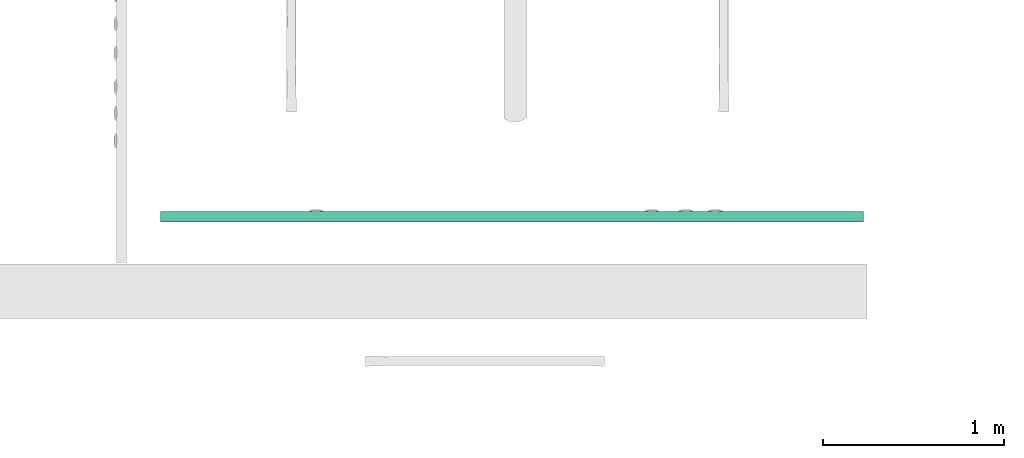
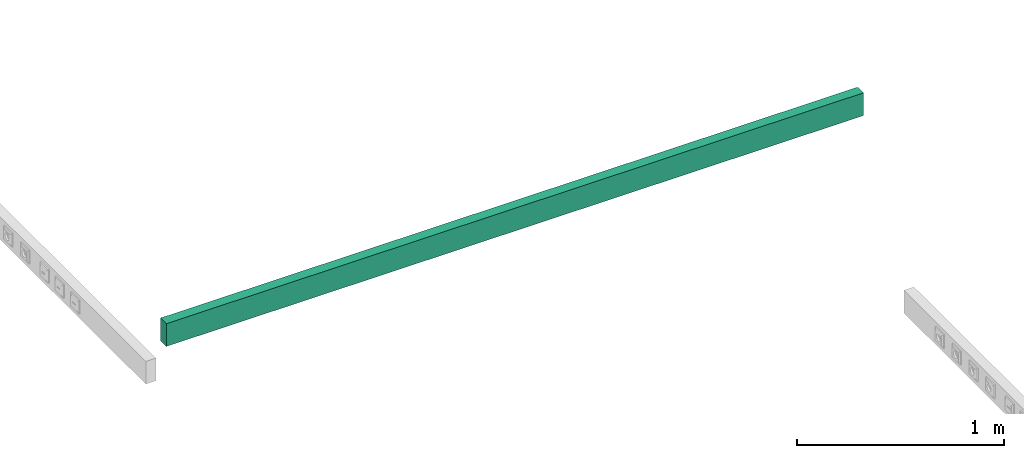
# One storey, part 6 of 166: 1 flow segment.
"""IFC2X3 building model written with IfcOpenShell, lengths in metres."""

from ifc_helpers import new_model, entity, si_unit, converted_unit, derived_unit, direction, frame, frame_2d, origin, place, context, subcontext, project, spatial, rectangle, extrude, type_object, element, save


model = new_model("IFC2X3")

# Units and contexts
model_context = context("Model", 3, precision=1e-05, world=origin(), true_north=direction((6.12303176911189e-17, 1.0)))
body_context = subcontext(model_context, "Body", "Model", "MODEL_VIEW")
ifc_project = project(units=[si_unit("LENGTHUNIT", "METRE"), si_unit("AREAUNIT", "SQUARE_METRE"), si_unit("VOLUMEUNIT", "CUBIC_METRE"), converted_unit("PLANEANGLEUNIT", "DEGREE", entity("IfcRatioMeasure", 0.0174532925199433), si_unit("PLANEANGLEUNIT", "RADIAN"), dimensions=[0, 0, 0, 0, 0, 0, 0]), si_unit("MASSUNIT", "GRAM", prefix="KILO"), derived_unit("MASSDENSITYUNIT", [(si_unit("MASSUNIT", "GRAM", prefix="KILO"), 1), (si_unit("LENGTHUNIT", "METRE"), -3)]), si_unit("TIMEUNIT", "SECOND"), si_unit("FREQUENCYUNIT", "HERTZ"), si_unit("THERMODYNAMICTEMPERATUREUNIT", "DEGREE_CELSIUS"), derived_unit("THERMALTRANSMITTANCEUNIT", [(si_unit("MASSUNIT", "GRAM", prefix="KILO"), 1), (si_unit("THERMODYNAMICTEMPERATUREUNIT", "KELVIN"), -1), (si_unit("TIMEUNIT", "SECOND"), -3)]), derived_unit("VOLUMETRICFLOWRATEUNIT", [(si_unit("LENGTHUNIT", "METRE"), 3), (si_unit("TIMEUNIT", "SECOND"), -1)]), si_unit("ELECTRICCURRENTUNIT", "AMPERE"), si_unit("ELECTRICVOLTAGEUNIT", "VOLT"), si_unit("POWERUNIT", "WATT"), si_unit("FORCEUNIT", "NEWTON"), si_unit("ILLUMINANCEUNIT", "LUX"), si_unit("LUMINOUSFLUXUNIT", "LUMEN"), si_unit("LUMINOUSINTENSITYUNIT", "CANDELA"), derived_unit("USERDEFINED", [(si_unit("MASSUNIT", "GRAM", prefix="KILO"), -1), (si_unit("LENGTHUNIT", "METRE"), -2), (si_unit("TIMEUNIT", "SECOND"), 3), (si_unit("LUMINOUSFLUXUNIT", "LUMEN"), 1)]), derived_unit("LINEARVELOCITYUNIT", [(si_unit("LENGTHUNIT", "METRE"), 1), (si_unit("TIMEUNIT", "SECOND"), -1)]), si_unit("PRESSUREUNIT", "PASCAL"), derived_unit("USERDEFINED", [(si_unit("LENGTHUNIT", "METRE"), -2), (si_unit("MASSUNIT", "GRAM", prefix="KILO"), 1), (si_unit("TIMEUNIT", "SECOND"), -2)])], contexts=[model_context])

# Site, building, storey
site_placement = place(None, origin())
site = spatial("IfcSite", under=ifc_project, at=site_placement, Name="Default", CompositionType="ELEMENT")
building_placement = place(site_placement, origin())
building = spatial("IfcBuilding", under=site, at=building_placement, CompositionType="ELEMENT")
storey_placement = place(building_placement, frame((0.0, 0.0, 4.27)))
storey = spatial("IfcBuildingStorey", under=building, at=storey_placement, Name="01", CompositionType="ELEMENT", Elevation=4.27)

# Flow segment
cable_carrier_segment_type = type_object("IfcCableCarrierSegmentType", Name="Cable Tray with Fittings:Goulottes de câbles indéfini_Goulottes de câbles", PredefinedType="NOTDEFINED")
flow_segment_placement = place(storey_placement, origin())
element("IfcFlowSegment", 1, at=flow_segment_placement, inside=storey, type_object=cable_carrier_segment_type, Name="Cable Tray with Fittings:Goulottes de câbles indéfini_Goulottes de câbles", ObjectType="Cable Tray with Fittings:Goulottes de câbles indéfini_Goulottes de câbles", context=body_context, shape_type="SweptSolid", body=[
    extrude(rectangle(XDim=3.88360089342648, YDim=0.0559999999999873, at=frame_2d((4.32986979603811e-15, 0.0), x_axis=(1.0, 0.0))), frame((39.55316563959, -187.67677847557, 0.366)), (0.0, 0.0, 1.0), 0.134),
])

save(model, "model.ifc")
